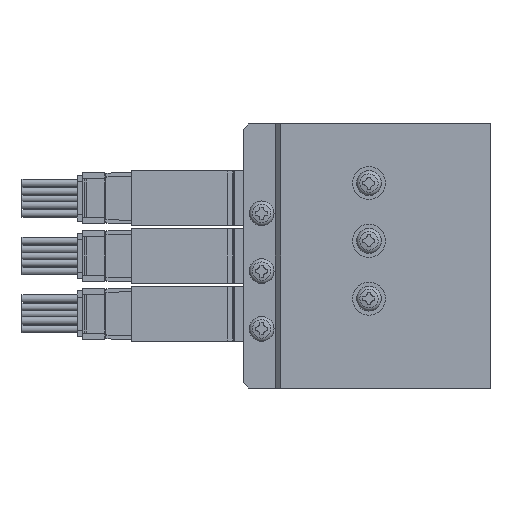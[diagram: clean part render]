
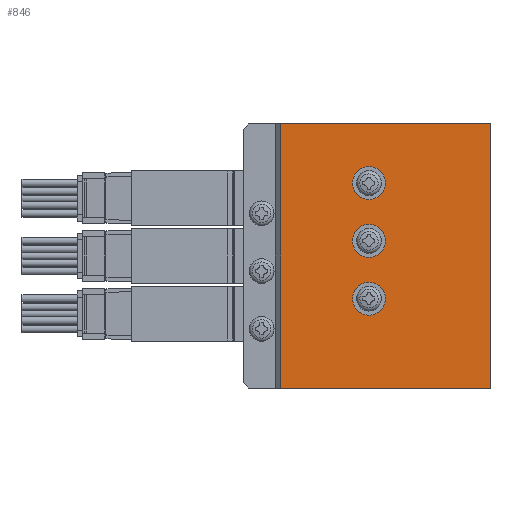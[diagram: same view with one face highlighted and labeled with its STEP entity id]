
A CAD part, left-side view. The second image highlights one B-rep face of the part: STEP entity #846.
In plain terms, the highlighted planar face has unit normal (-1, 0, 0) as drawn and (1, 0, 0) by its records, which use the part's own axes.
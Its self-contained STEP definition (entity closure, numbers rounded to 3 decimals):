
#846=ADVANCED_FACE('',(#1976,#1977,#1978,#1979),#1980,.F.);
#1976=FACE_OUTER_BOUND('',#3245,.T.);
#1977=FACE_BOUND('',#3246,.T.);
#1978=FACE_BOUND('',#3247,.T.);
#1979=FACE_BOUND('',#3248,.T.);
#1980=PLANE('',#3249);
#3245=EDGE_LOOP('',(#7042,#7043,#7044,#7045));
#3246=EDGE_LOOP('',(#7046));
#3247=EDGE_LOOP('',(#7047));
#3248=EDGE_LOOP('',(#7048));
#3249=AXIS2_PLACEMENT_3D('',#7049,#7050,#7051);
#7042=ORIENTED_EDGE('',*,*,#8944,.T.);
#7043=ORIENTED_EDGE('',*,*,#8945,.F.);
#7044=ORIENTED_EDGE('',*,*,#8946,.F.);
#7045=ORIENTED_EDGE('',*,*,#8947,.T.);
#7046=ORIENTED_EDGE('',*,*,#8942,.F.);
#7047=ORIENTED_EDGE('',*,*,#8943,.F.);
#7048=ORIENTED_EDGE('',*,*,#8948,.F.);
#7049=CARTESIAN_POINT('',(19.0,0.0,24.0));
#7050=DIRECTION('',(-1.0,0.0,0.0));
#7051=DIRECTION('',(0.0,0.0,1.0));
#8942=EDGE_CURVE('',#11112,#11112,#11113,.T.);
#8943=EDGE_CURVE('',#11114,#11114,#11115,.T.);
#8944=EDGE_CURVE('',#11116,#11117,#11118,.T.);
#8945=EDGE_CURVE('',#11119,#11117,#11120,.T.);
#8946=EDGE_CURVE('',#11121,#11119,#11122,.T.);
#8947=EDGE_CURVE('',#11121,#11116,#11123,.T.);
#8948=EDGE_CURVE('',#11124,#11124,#11125,.T.);
#11112=VERTEX_POINT('',#15140);
#11113=CIRCLE('',#15141,3.0);
#11114=VERTEX_POINT('',#15142);
#11115=CIRCLE('',#15143,3.0);
#11116=VERTEX_POINT('',#15144);
#11117=VERTEX_POINT('',#15145);
#11118=LINE('',#15146,#15147);
#11119=VERTEX_POINT('',#15148);
#11120=LINE('',#15149,#15150);
#11121=VERTEX_POINT('',#15151);
#11122=LINE('',#15152,#15153);
#11123=LINE('',#15154,#15155);
#11124=VERTEX_POINT('',#15156);
#11125=CIRCLE('',#15157,3.0);
#15140=CARTESIAN_POINT('',(19.0,22.0,4.75));
#15141=AXIS2_PLACEMENT_3D('',#17058,#17059,#17060);
#15142=CARTESIAN_POINT('',(19.0,22.0,-16.25));
#15143=AXIS2_PLACEMENT_3D('',#17061,#17062,#17063);
#15144=CARTESIAN_POINT('',(19.0,0.0,-24.0));
#15145=CARTESIAN_POINT('',(19.0,38.0,-24.0));
#15146=CARTESIAN_POINT('',(19.0,0.0,-24.0));
#15147=VECTOR('',#17064,1.0);
#15148=CARTESIAN_POINT('',(19.0,38.0,24.0));
#15149=CARTESIAN_POINT('',(19.0,38.0,24.0));
#15150=VECTOR('',#17065,1.0);
#15151=CARTESIAN_POINT('',(19.0,0.0,24.0));
#15152=CARTESIAN_POINT('',(19.0,0.0,24.0));
#15153=VECTOR('',#17066,1.0);
#15154=CARTESIAN_POINT('',(19.0,0.0,24.0));
#15155=VECTOR('',#17067,1.0);
#15156=CARTESIAN_POINT('',(19.0,22.0,-5.75));
#15157=AXIS2_PLACEMENT_3D('',#17068,#17069,#17070);
#17058=CARTESIAN_POINT('',(19.0,22.0,7.75));
#17059=DIRECTION('',(1.0,0.0,0.0));
#17060=DIRECTION('',(0.0,0.0,-1.0));
#17061=CARTESIAN_POINT('',(19.0,22.0,-13.25));
#17062=DIRECTION('',(1.0,0.0,0.0));
#17063=DIRECTION('',(0.0,0.0,-1.0));
#17064=DIRECTION('',(0.0,1.0,0.0));
#17065=DIRECTION('',(0.0,0.0,-1.0));
#17066=DIRECTION('',(0.0,1.0,0.0));
#17067=DIRECTION('',(0.0,0.0,-1.0));
#17068=CARTESIAN_POINT('',(19.0,22.0,-2.75));
#17069=DIRECTION('',(1.0,0.0,0.0));
#17070=DIRECTION('',(0.0,0.0,-1.0));
